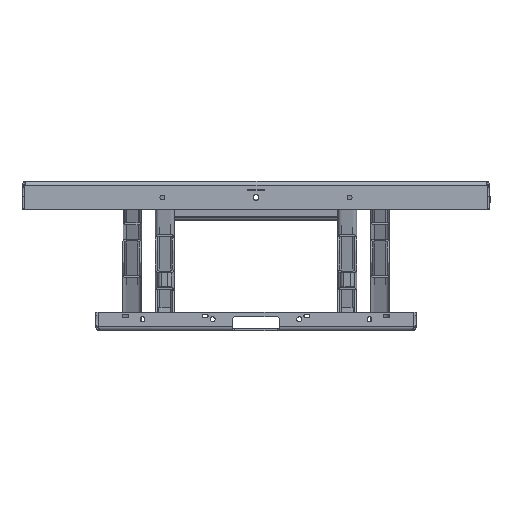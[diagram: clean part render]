
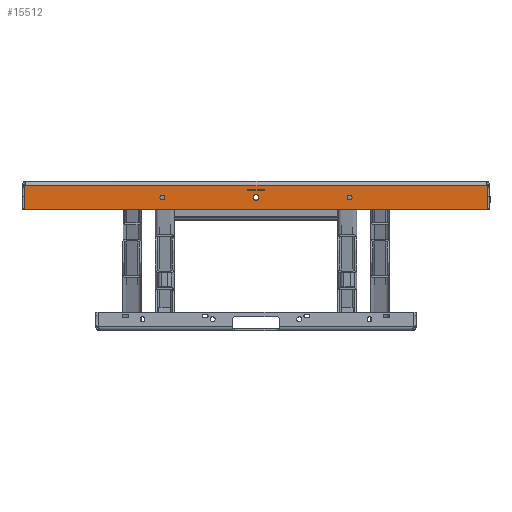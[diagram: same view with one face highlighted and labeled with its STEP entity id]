
A CAD part, left-side view. The second image highlights one B-rep face of the part: STEP entity #15512.
In plain terms, the highlighted planar face has unit normal (-1, 0, 0) as drawn and (1, 0, 0) by its records, which use the part's own axes.
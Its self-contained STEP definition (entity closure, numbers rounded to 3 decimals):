
#904=FACE_BOUND('',#3199,.T.);
#905=FACE_BOUND('',#3200,.T.);
#906=FACE_BOUND('',#3201,.T.);
#1389=CIRCLE('',#16800,6.25);
#1393=CIRCLE('',#16806,5.25);
#1397=CIRCLE('',#16812,5.25);
#1468=CIRCLE('',#16928,1.);
#1470=CIRCLE('',#16932,1.);
#1471=CIRCLE('',#16933,1.);
#1472=CIRCLE('',#16934,1.);
#2211=FACE_OUTER_BOUND('',#3198,.T.);
#3198=EDGE_LOOP('',(#13133,#13134,#13135,#13136,#13137,#13138,#13139,#13140,
#13141,#13142));
#3199=EDGE_LOOP('',(#13143));
#3200=EDGE_LOOP('',(#13144));
#3201=EDGE_LOOP('',(#13145));
#4596=LINE('',#25428,#6023);
#4599=LINE('',#25434,#6026);
#4600=LINE('',#25438,#6027);
#4601=LINE('',#25440,#6028);
#4602=LINE('',#25442,#6029);
#4603=LINE('',#25446,#6030);
#6023=VECTOR('',#20475,10.);
#6026=VECTOR('',#20480,10.);
#6027=VECTOR('',#20483,10.);
#6028=VECTOR('',#20484,10.);
#6029=VECTOR('',#20485,10.);
#6030=VECTOR('',#20488,10.);
#7342=VERTEX_POINT('',#25084);
#7346=VERTEX_POINT('',#25094);
#7350=VERTEX_POINT('',#25104);
#7464=VERTEX_POINT('',#25418);
#7465=VERTEX_POINT('',#25419);
#7468=VERTEX_POINT('',#25427);
#7470=VERTEX_POINT('',#25433);
#7471=VERTEX_POINT('',#25435);
#7472=VERTEX_POINT('',#25437);
#7473=VERTEX_POINT('',#25439);
#7474=VERTEX_POINT('',#25441);
#7475=VERTEX_POINT('',#25443);
#7476=VERTEX_POINT('',#25445);
#9284=EDGE_CURVE('',#7342,#7342,#1389,.T.);
#9288=EDGE_CURVE('',#7346,#7346,#1393,.T.);
#9292=EDGE_CURVE('',#7350,#7350,#1397,.T.);
#9447=EDGE_CURVE('',#7464,#7465,#1468,.T.);
#9451=EDGE_CURVE('',#7465,#7468,#4596,.T.);
#9454=EDGE_CURVE('',#7470,#7464,#4599,.T.);
#9455=EDGE_CURVE('',#7471,#7470,#1470,.T.);
#9456=EDGE_CURVE('',#7471,#7472,#4600,.T.);
#9457=EDGE_CURVE('',#7472,#7473,#4601,.T.);
#9458=EDGE_CURVE('',#7473,#7474,#4602,.T.);
#9459=EDGE_CURVE('',#7475,#7474,#1471,.T.);
#9460=EDGE_CURVE('',#7476,#7475,#4603,.T.);
#9461=EDGE_CURVE('',#7468,#7476,#1472,.T.);
#13133=ORIENTED_EDGE('',*,*,#9447,.F.);
#13134=ORIENTED_EDGE('',*,*,#9454,.F.);
#13135=ORIENTED_EDGE('',*,*,#9455,.F.);
#13136=ORIENTED_EDGE('',*,*,#9456,.T.);
#13137=ORIENTED_EDGE('',*,*,#9457,.T.);
#13138=ORIENTED_EDGE('',*,*,#9458,.T.);
#13139=ORIENTED_EDGE('',*,*,#9459,.F.);
#13140=ORIENTED_EDGE('',*,*,#9460,.F.);
#13141=ORIENTED_EDGE('',*,*,#9461,.F.);
#13142=ORIENTED_EDGE('',*,*,#9451,.F.);
#13143=ORIENTED_EDGE('',*,*,#9284,.T.);
#13144=ORIENTED_EDGE('',*,*,#9288,.T.);
#13145=ORIENTED_EDGE('',*,*,#9292,.T.);
#14858=PLANE('',#16931);
#15512=ADVANCED_FACE('',(#2211,#904,#905,#906),#14858,.F.);
#16800=AXIS2_PLACEMENT_3D('',#25085,#20127,#20128);
#16806=AXIS2_PLACEMENT_3D('',#25095,#20139,#20140);
#16812=AXIS2_PLACEMENT_3D('',#25105,#20151,#20152);
#16928=AXIS2_PLACEMENT_3D('',#25420,#20467,#20468);
#16931=AXIS2_PLACEMENT_3D('',#25432,#20478,#20479);
#16932=AXIS2_PLACEMENT_3D('',#25436,#20481,#20482);
#16933=AXIS2_PLACEMENT_3D('',#25444,#20486,#20487);
#16934=AXIS2_PLACEMENT_3D('',#25447,#20489,#20490);
#20127=DIRECTION('center_axis',(-1.,0.,0.));
#20128=DIRECTION('ref_axis',(0.,0.,1.));
#20139=DIRECTION('center_axis',(-1.,0.,0.));
#20140=DIRECTION('ref_axis',(0.,0.,1.));
#20151=DIRECTION('center_axis',(-1.,0.,0.));
#20152=DIRECTION('ref_axis',(0.,0.,1.));
#20467=DIRECTION('center_axis',(-1.,0.,0.));
#20468=DIRECTION('ref_axis',(0.,-0.707,0.707));
#20475=DIRECTION('',(0.,1.,0.));
#20478=DIRECTION('center_axis',(-1.,0.,0.));
#20479=DIRECTION('ref_axis',(0.,0.,
1.));
#20480=DIRECTION('',(0.,0.,1.));
#20481=DIRECTION('center_axis',(-1.,0.,0.));
#20482=DIRECTION('ref_axis',(0.,-1.,-0.029));
#20483=DIRECTION('',(0.,0.057,-0.998));
#20484=DIRECTION('',(0.,1.,0.));
#20485=DIRECTION('',(0.,0.057,0.998));
#20486=DIRECTION('center_axis',(-1.,0.,0.));
#20487=DIRECTION('ref_axis',(0.,1.,-0.029));
#20488=DIRECTION('',(0.,0.,-1.));
#20489=DIRECTION('center_axis',(-1.,0.,0.));
#20490=DIRECTION('ref_axis',(0.,0.707,0.707));
#25084=CARTESIAN_POINT('',(650.,0.,28.75));
#25085=CARTESIAN_POINT('Origin',(650.,0.,35.));
#25094=CARTESIAN_POINT('',(650.,200.,29.75));
#25095=CARTESIAN_POINT('Origin',(650.,200.,35.));
#25104=CARTESIAN_POINT('',(650.,-200.,29.75));
#25105=CARTESIAN_POINT('Origin',(650.,-200.,35.));
#25418=CARTESIAN_POINT('',(650.,-494.5,59.));
#25419=CARTESIAN_POINT('',(650.,-493.5,60.));
#25420=CARTESIAN_POINT('Origin',(650.,-493.5,59.));
#25427=CARTESIAN_POINT('',(650.,493.5,60.));
#25428=CARTESIAN_POINT('',(650.,-494.5,60.));
#25432=CARTESIAN_POINT('Origin',(650.,0.,30.002));
#25433=CARTESIAN_POINT('',(650.,-494.5,24.618));
#25434=CARTESIAN_POINT('',(650.,-494.5,10.));
#25435=CARTESIAN_POINT('',(650.,-494.498,24.561));
#25436=CARTESIAN_POINT('Origin',(650.,-493.5,24.618));
#25437=CARTESIAN_POINT('',(650.,-493.666,10.));
#25438=CARTESIAN_POINT('',(650.,-493.849,13.205));
#25439=CARTESIAN_POINT('',(650.,493.666,10.));
#25440=CARTESIAN_POINT('',(650.,0.,10.));
#25441=CARTESIAN_POINT('',(650.,494.498,24.561));
#25442=CARTESIAN_POINT('',(650.,493.849,13.205));
#25443=CARTESIAN_POINT('',(650.,494.5,24.618));
#25444=CARTESIAN_POINT('Origin',(650.,493.5,24.618));
#25445=CARTESIAN_POINT('',(650.,494.5,59.));
#25446=CARTESIAN_POINT('',(650.,494.5,10.));
#25447=CARTESIAN_POINT('Origin',(650.,493.5,59.));
